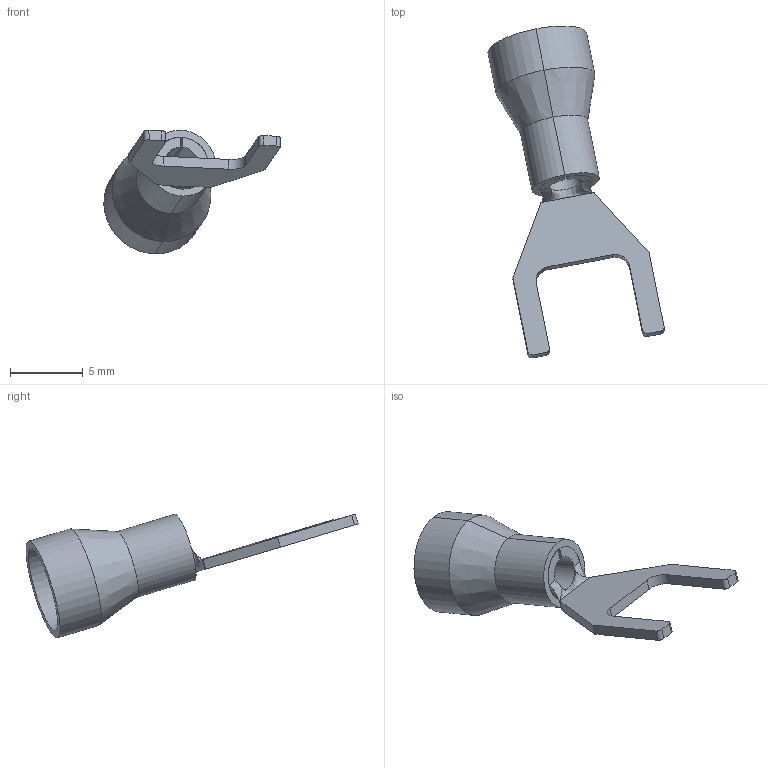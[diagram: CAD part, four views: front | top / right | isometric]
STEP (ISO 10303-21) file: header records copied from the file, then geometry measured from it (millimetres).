
FILE_DESCRIPTION (( 'STEP AP214' ), '1' );
FILE_NAME ('278060 OptiKit T-V-PVC-2-6.STEP', '2020-02-19T09:20:21', ( '' ), ( '' ), 'SwSTEP 2.0', 'SolidWorks 2018', '' );
FILE_SCHEMA (( 'AUTOMOTIVE_DESIGN' ));
Length unit declared in the file: millimetre
Products named in the file (3): Îïëåòêà 2; ﾍﾂﾈ-SVS 2-6; 278060 OptiKit T-V-PVC-2-6
Assembly tree (2 placements, depth 2):
  278060 OptiKit T-V-PVC-2-6
    ﾍﾂﾈ-SVS 2-6
    Îïëåòêà 2
Bounding box: 12.08 x 22.74 x 8.47 mm (x, y, z)
Volume: 155 mm3; surface area: 588.8 mm2
Topology: 2 solids, 2 shells, 50 faces, 124 edges, 76 vertices
Faces by surface type: cylinder 20, plane 18, bspline 8, cone 4
Entity records: 1907 total; most frequent: CARTESIAN_POINT 672, ORIENTED_EDGE 244, DIRECTION 226, EDGE_CURVE 122, AXIS2_PLACEMENT_3D 83, VERTEX_POINT 76, VECTOR 60, LINE 60
